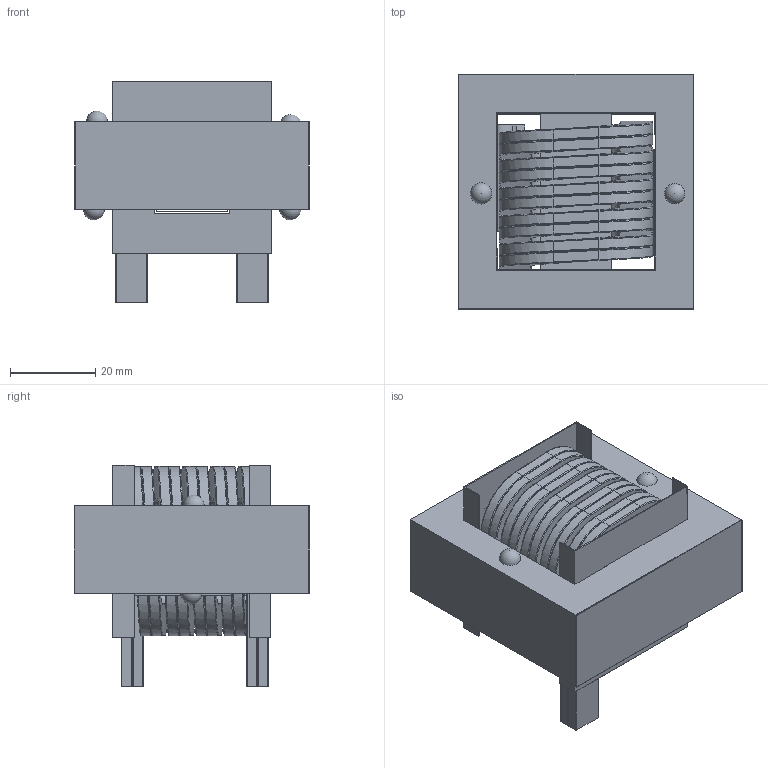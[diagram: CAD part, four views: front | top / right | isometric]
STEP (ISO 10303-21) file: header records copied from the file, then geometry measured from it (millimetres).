
FILE_DESCRIPTION (( 'STEP AP214' ), '1' );
FILE_NAME ('ES55206-4R5M-300AH.STEP', '2019-02-02T20:15:46', ( '' ), ( '' ), 'SwSTEP 2.0', 'SolidWorks 2018', '' );
FILE_SCHEMA (( 'AUTOMOTIVE_DESIGN' ));
Length unit declared in the file: inch
Products named in the file (1): ES55206-4R5M-300AH
Bounding box: 55 x 55.3 x 52.15 mm (x, y, z)
Volume: 68883.8 mm3; surface area: 42314.8 mm2
Topology: 1 solids, 1 shells, 585 faces, 1565 edges, 948 vertices
Faces by surface type: bspline 305, plane 173, cylinder 103, sphere 4
Entity records: 42750 total; most frequent: CARTESIAN_POINT 23262, ORIENTED_EDGE 3114, DIRECTION 1571, EDGE_CURVE 1557, VERTEX_POINT 944, B_SPLINE_CURVE_WITH_KNOTS 815, EDGE_LOOP 597, UNCERTAINTY_MEASURE_WITH_UNIT 588
